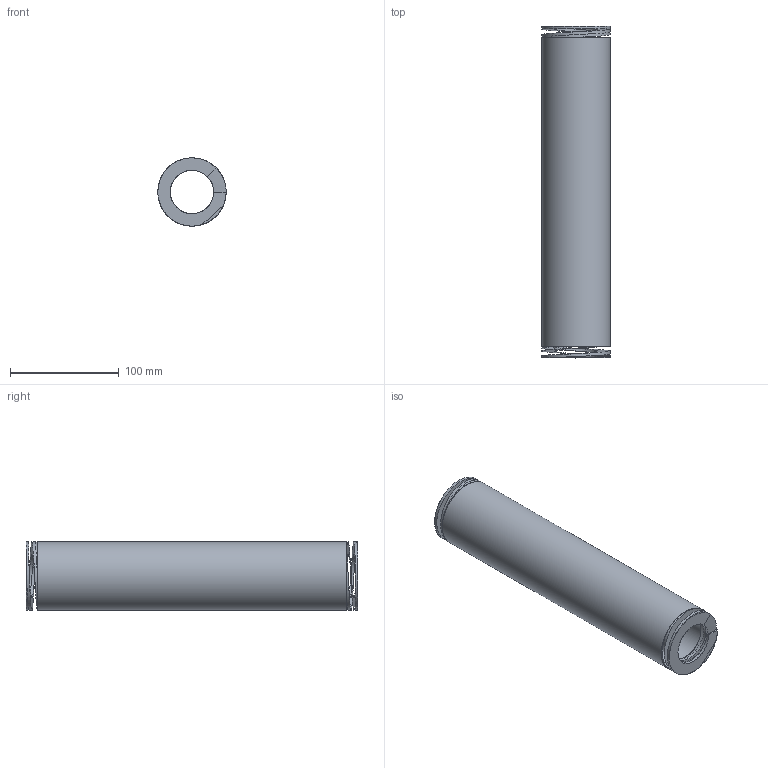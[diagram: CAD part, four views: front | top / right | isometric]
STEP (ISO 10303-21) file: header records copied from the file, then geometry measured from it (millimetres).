
FILE_DESCRIPTION(/* description */ ('Max 50% | 152.5 | 2074'),/* implementation_level */ '2;1');
FILE_NAME(/* name */ '1L63303.step',/* time_stamp */ '2026-10-07T11:11:20+02:00',/* author */ ('1L'),/* organization */ ('11,4x5,1 prostokatny'),/* preprocessor_version */ 'ST-DEVELOPER v20.1',/* originating_system */ 'Autodesk Inventor 2026',/* authorisation */ '13.6');
FILE_SCHEMA (('AUTOMOTIVE_DESIGN { 1 0 10303 214 3 1 1 }'));
Length unit declared in the file: millimetre
Products named in the file (1): 1L63303
Bounding box: 62.71 x 305 x 62.72 mm (x, y, z)
Volume: 546228.8 mm3; surface area: 108725.6 mm2
Topology: 1 solids, 1 shells, 22 faces, 64 edges, 40 vertices
Faces by surface type: bspline 14, plane 6, cylinder 2
Full cylindrical faces by diameter (mm): 39.909 x1, 62.711 x1
Entity records: 3260 total; most frequent: CARTESIAN_POINT 2784, ORIENTED_EDGE 120, EDGE_CURVE 60, B_SPLINE_CURVE_WITH_KNOTS 48, VERTEX_POINT 38, DIRECTION 34, EDGE_LOOP 26, FACE_OUTER_BOUND 22
